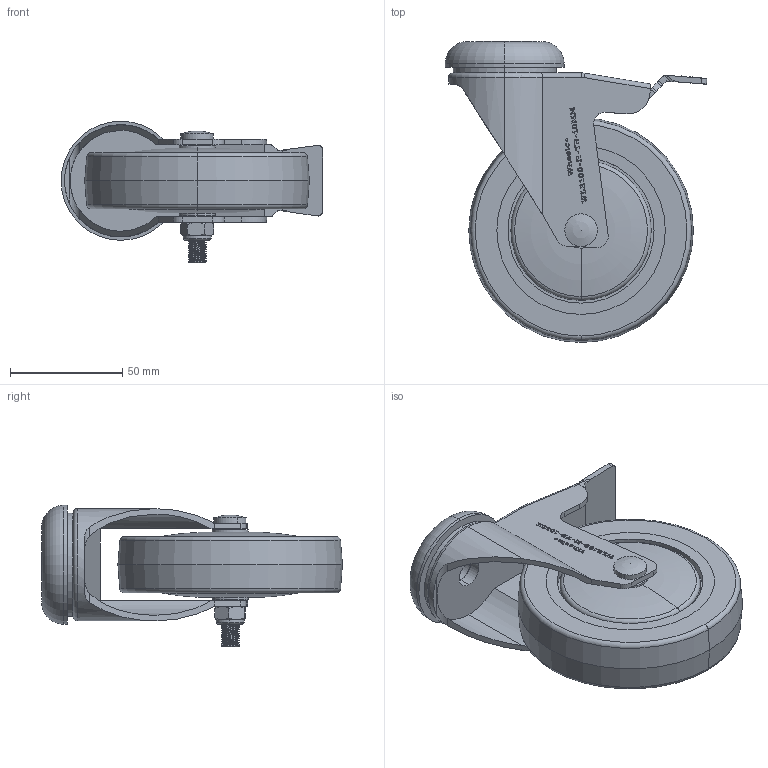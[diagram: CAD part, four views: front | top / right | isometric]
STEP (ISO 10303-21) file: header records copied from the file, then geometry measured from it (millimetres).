
FILE_DESCRIPTION (( 'STEP AP214' ), '1' );
FILE_NAME ('WLR100-H-TB 10MM.step', '2024-01-15T01:46:52', ( '' ), ( '' ), 'SwSTEP 2.0', 'SolidWorks 2022', '' );
FILE_SCHEMA (( 'AUTOMOTIVE_DESIGN' ));
Length unit declared in the file: millimetre
Products named in the file (6): WC-M8x55; WL100-H-TB 12MM FRAME; M8Nyloc-WHITE; WL100-H-TB 10MM CAP; WLR100; WLR100-H-TB 10MM
Assembly tree (5 placements, depth 2):
  WLR100-H-TB 10MM
    WC-M8x55
    M8Nyloc-WHITE
    WLR100
    WL100-H-TB 12MM FRAME
    WL100-H-TB 10MM CAP
Bounding box: 116.5 x 134 x 63 mm (x, y, z)
Volume: 254963.6 mm3; surface area: 58743.6 mm2
Topology: 5 solids, 5 shells, 667 faces, 1798 edges, 1183 vertices
Faces by surface type: plane 391, bspline 125, cylinder 109, torus 23, cone 18, sphere 1
Entity records: 30104 total; most frequent: CARTESIAN_POINT 13769, ORIENTED_EDGE 3590, DIRECTION 2738, EDGE_CURVE 1795, LINE 1230, VECTOR 1230, VERTEX_POINT 1181, AXIS2_PLACEMENT_3D 754
